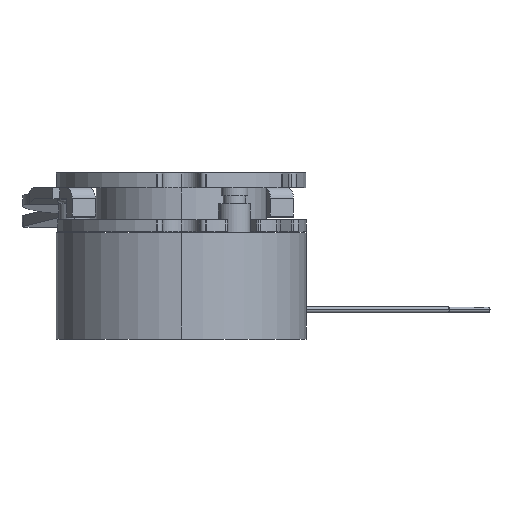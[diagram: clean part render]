
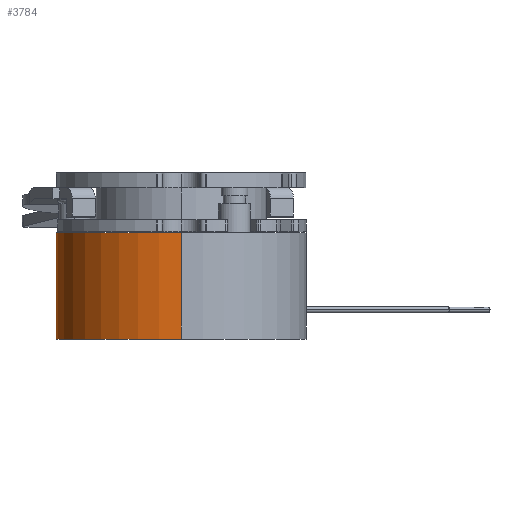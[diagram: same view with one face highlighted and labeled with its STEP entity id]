
A CAD part, left-side view. The second image highlights one B-rep face of the part: STEP entity #3784.
In plain terms, the highlighted cylindrical face has radius 23.5 mm (diameter 47 mm), a partial arc.
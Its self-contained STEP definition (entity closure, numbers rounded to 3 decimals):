
#332 = CIRCLE ( 'NONE', #15341, 23.5 ) ;
#3784 = ADVANCED_FACE ( 'NONE', ( #3905 ), #3913, .T. ) ;
#3905 = FACE_OUTER_BOUND ( 'NONE', #6004, .T. ) ;
#3913 = CYLINDRICAL_SURFACE ( 'NONE', #6966, 23.5 ) ;
#4411 = LINE ( 'NONE', #14268, #4414 ) ;
#4414 = VECTOR ( 'NONE', #14270, 1000. ) ;
#5689 = EDGE_CURVE ( 'NONE', #5804, #5877, #4411, .T. ) ;
#5765 = VERTEX_POINT ( 'NONE', #14465 ) ;
#5804 = VERTEX_POINT ( 'NONE', #14552 ) ;
#5877 = VERTEX_POINT ( 'NONE', #14687 ) ;
#6004 = EDGE_LOOP ( 'NONE', ( #8324, #8278, #8301, #8300 ) ) ;
#6966 = AXIS2_PLACEMENT_3D ( 'NONE', #13661, #13662, #13669 ) ;
#7891 = EDGE_CURVE ( 'NONE', #8180, #5765, #15015, .T. ) ;
#7893 = EDGE_CURVE ( 'NONE', #8180, #5804, #15018, .T. ) ;
#8180 = VERTEX_POINT ( 'NONE', #12991 ) ;
#8278 = ORIENTED_EDGE ( 'NONE', *, *, #7891, .T. ) ;
#8300 = ORIENTED_EDGE ( 'NONE', *, *, #5689, .F. ) ;
#8301 = ORIENTED_EDGE ( 'NONE', *, *, #9379, .T. ) ;
#8324 = ORIENTED_EDGE ( 'NONE', *, *, #7893, .F. ) ;
#9196 = AXIS2_PLACEMENT_3D ( 'NONE', #12887, #12888, #12889 ) ;
#9379 = EDGE_CURVE ( 'NONE', #5765, #5877, #332, .T. ) ;
#12419 = CARTESIAN_POINT ( 'NONE',  ( 0., 0., 0. ) ) ;
#12420 = DIRECTION ( 'NONE',  ( 0., 0., 1. ) ) ;
#12422 = DIRECTION ( 'NONE',  ( 1., 0., 0. ) ) ;
#12875 = CARTESIAN_POINT ( 'NONE',  ( 23.5, 0., 20. ) ) ;
#12876 = DIRECTION ( 'NONE',  ( 0., 0., -1. ) ) ;
#12887 = CARTESIAN_POINT ( 'NONE',  ( 0., 0., 20. ) ) ;
#12888 = DIRECTION ( 'NONE',  ( 0., 0., 1. ) ) ;
#12889 = DIRECTION ( 'NONE',  ( 1., 0., 0. ) ) ;
#12991 = CARTESIAN_POINT ( 'NONE',  ( 23.5, 0., 20. ) ) ;
#13661 = CARTESIAN_POINT ( 'NONE',  ( 0., 0., 20. ) ) ;
#13662 = DIRECTION ( 'NONE',  ( 0., 0., -1. ) ) ;
#13669 = DIRECTION ( 'NONE',  ( -1., 0., 0. ) ) ;
#14268 = CARTESIAN_POINT ( 'NONE',  ( -23.5, 0., 20. ) ) ;
#14270 = DIRECTION ( 'NONE',  ( 0., 0., -1. ) ) ;
#14465 = CARTESIAN_POINT ( 'NONE',  ( 23.5, 0., 0. ) ) ;
#14552 = CARTESIAN_POINT ( 'NONE',  ( -23.5, 0., 20. ) ) ;
#14687 = CARTESIAN_POINT ( 'NONE',  ( -23.5, 0., 0. ) ) ;
#15015 = LINE ( 'NONE', #12875, #15017 ) ;
#15017 = VECTOR ( 'NONE', #12876, 1000. ) ;
#15018 = CIRCLE ( 'NONE', #9196, 23.5 ) ;
#15341 = AXIS2_PLACEMENT_3D ( 'NONE', #12419, #12420, #12422 ) ;
